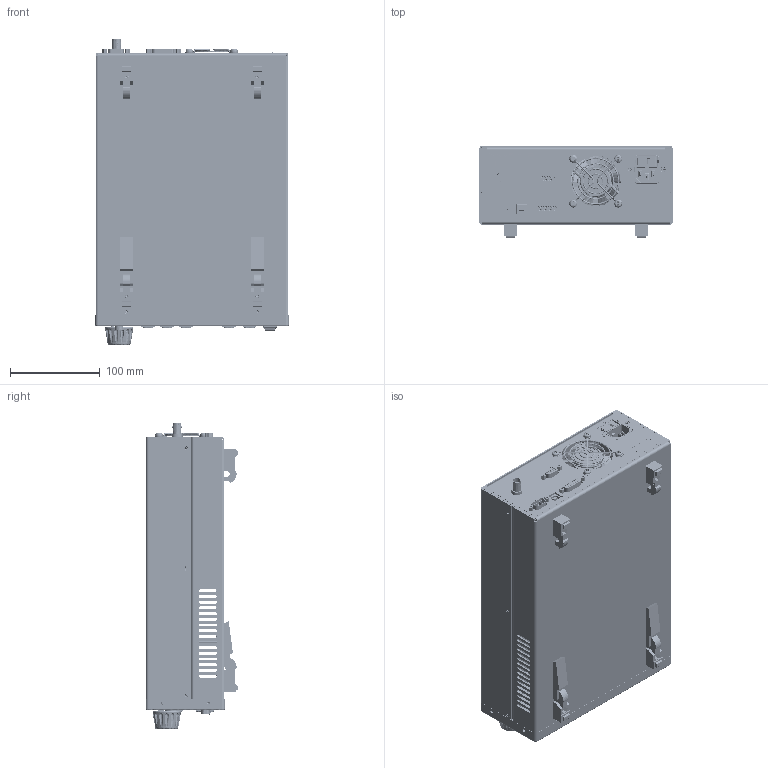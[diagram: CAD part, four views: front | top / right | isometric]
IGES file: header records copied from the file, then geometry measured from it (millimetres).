
Start section: SolidWorks IGES file using analytic representation for surfaces
Global section: file name: C:\Dropbox\Mechanical Engr\Development Projects (P)\6300 ComboSource\Customer Model Development\63XX TLA1.IGS; native system: SolidWorks 2014; preprocessor: SolidWorks 2014; author: mhanson; date: 150929.174704; units: inch
Bounding box: 215.9 x 103.1 x 342.24 mm (x, y, z)
Volume: 575787.6 mm3; surface area: 599221.5 mm2
Topology: 103 solids, 105 shells, 10590 faces, 28050 edges, 18089 vertices
Faces by surface type: plane 5316, revolution 3113, bspline 2161
